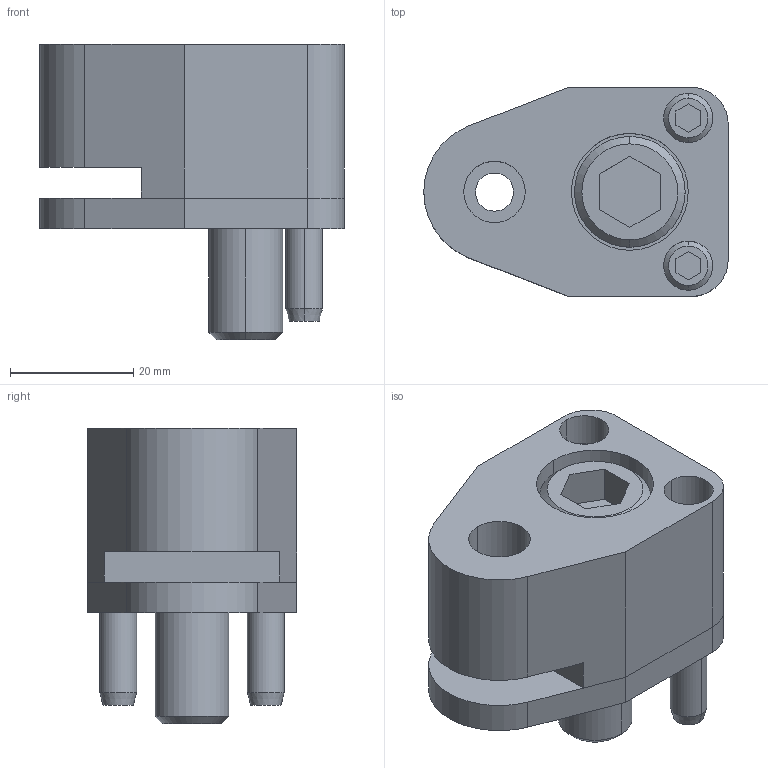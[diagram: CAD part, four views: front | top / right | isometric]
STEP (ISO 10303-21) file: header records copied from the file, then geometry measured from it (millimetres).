
FILE_DESCRIPTION(/* description */ (''),/* implementation_level */ '2;1');
FILE_NAME(/* name */ '3d_tp-fps10_03047_r00.stp',/* time_stamp */ '2011-01-10T14:09:00+09:00',/* author */ ('MISUMI'),/* organization */ (''),/* preprocessor_version */ 'ST-DEVELOPER v11',/* originating_system */ 'UGS - NX 5.0',/* authorisation */ '');
FILE_SCHEMA (('CONFIG_CONTROL_DESIGN'));
Length unit declared in the file: millimetre
Products named in the file (1): 3d_tp-fps10_03047_r00
Bounding box: 49.5 x 34 x 48 mm (x, y, z)
Volume: 39541 mm3; surface area: 17163.9 mm2
Topology: 7 solids, 7 shells, 131 faces, 300 edges, 193 vertices
Faces by surface type: plane 59, cylinder 50, cone 22
Entity records: 3856 total; most frequent: CARTESIAN_POINT 684, DIRECTION 678, ORIENTED_EDGE 600, EDGE_CURVE 300, AXIS2_PLACEMENT_3D 255, VERTEX_POINT 193, LINE 168, VECTOR 168
